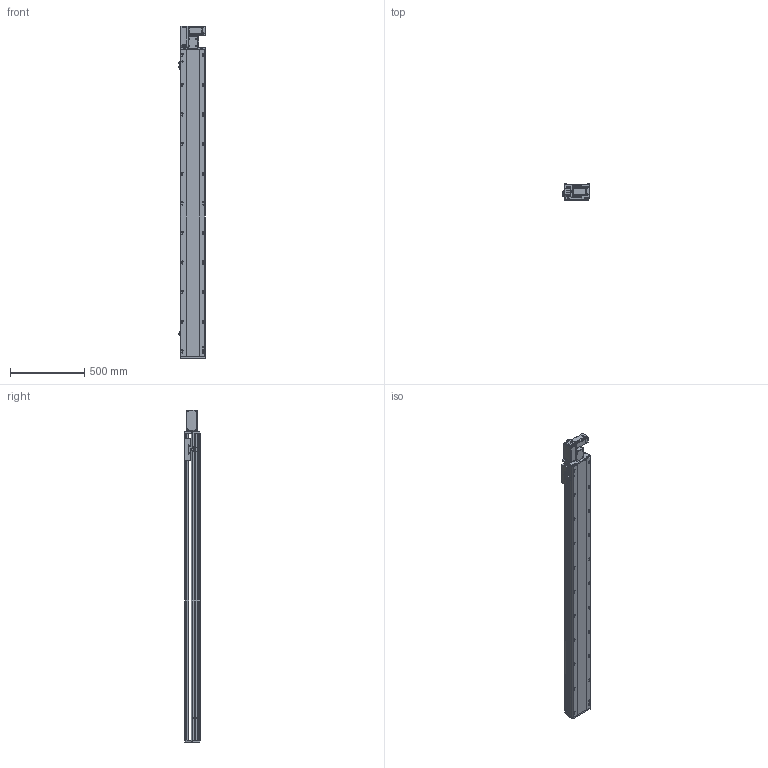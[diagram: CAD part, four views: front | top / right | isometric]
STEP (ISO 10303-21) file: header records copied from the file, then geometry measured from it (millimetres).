
FILE_DESCRIPTION (( 'STEP AP214' ), '1' );
FILE_NAME ('RTB17S-XX-1800-L-M40-C4.STEP', '2025-12-11T05:48:54', ( '' ), ( '' ), 'SwSTEP 2.0', 'SolidWorks 2018', '' );
FILE_SCHEMA (( 'AUTOMOTIVE_DESIGN' ));
Length unit declared in the file: millimetre
Products named in the file (14): RTB17S-XX-1800-L-M40-C4; OMRON EE-SX672 传感器^RTB17S-XX-XX-L-M40-C4（方程式）; RTH13-BL-012感应片外置^RTB17S-XX-XX-L-M40-C4（方程式）; RTB17S-L-004丝杆螺母连接座^RTB17S-XX-XX-L-M40-C4（方程式）; RTB14-L-018P^RTB17S-L-皮带座装配-400W_RTB17S-XX-XX-L-M40-C4（方程式）; 400W伺服电机^RTB17S-XX-XX-L-M40-C4（方程式）; RTB14-L-005P--轴承塑胶压盖^RTB17S-L-皮带座装配-400W_RTB17S-XX-XX-L-M40-C4（方程式）; RTB17S-L-001侧面板^RTB17S-XX-XX-L-M40-C4（方程式）; RTB17-R-011底座^RTB17S-XX-XX-L-M40-C4（方程式）; RTB14-L-017P^RTB17S-L-皮带座装配-400W_RTB17S-XX-XX-L-M40-C4（方程式）; RTB17S-L-皮带座装配-400W^RTB17S-XX-XX-L-M40-C4（方程式）; RTB14-L-008-M20--电机板^RTB17S-L-皮带座装配-400W_RTB17S-XX-XX-L-M40-C4（方程式）; RMP17S-L-014-T20--皮带座^RTB17S-L-皮带座装配-400W_RTB17S-XX-XX-L-M40-C4（方程式）; RTB17S-L-007上盖^RTB17S-XX-XX-L-M40-C4（方程式）
Assembly tree (16 placements, depth 3):
  RTB17S-XX-1800-L-M40-C4
    RTB17-R-011底座^RTB17S-XX-XX-L-M40-C4（方程式）
    RTB17S-L-007上盖^RTB17S-XX-XX-L-M40-C4（方程式）
    OMRON EE-SX672 传感器^RTB17S-XX-XX-L-M40-C4（方程式）  x3
    RTB17S-L-001侧面板^RTB17S-XX-XX-L-M40-C4（方程式）
    400W伺服电机^RTB17S-XX-XX-L-M40-C4（方程式）
    RTB17S-L-004丝杆螺母连接座^RTB17S-XX-XX-L-M40-C4（方程式）
    RTH13-BL-012感应片外置^RTB17S-XX-XX-L-M40-C4（方程式）
    RTB17S-L-皮带座装配-400W^RTB17S-XX-XX-L-M40-C4（方程式）
      RMP17S-L-014-T20--皮带座^RTB17S-L-皮带座装配-400W_RTB17S-XX-XX-L-M40-C4（方程式）
      RTB14-L-005P--轴承塑胶压盖^RTB17S-L-皮带座装配-400W_RTB17S-XX-XX-L-M40-C4（方程式）
      RTB14-L-008-M20--电机板^RTB17S-L-皮带座装配-400W_RTB17S-XX-XX-L-M40-C4（方程式）
      RTB14-L-017P^RTB17S-L-皮带座装配-400W_RTB17S-XX-XX-L-M40-C4（方程式）  x2
      RTB14-L-018P^RTB17S-L-皮带座装配-400W_RTB17S-XX-XX-L-M40-C4（方程式）
Bounding box: 186 x 108 x 2241 mm (x, y, z)
Volume: 18900911 mm3; surface area: 2208598.6 mm2
Topology: 15 solids, 15 shells, 2269 faces, 6303 edges, 4113 vertices
Faces by surface type: plane 1076, cylinder 745, bspline 301, cone 139, torus 8
Entity records: 65705 total; most frequent: CARTESIAN_POINT 18508, ORIENTED_EDGE 9450, DIRECTION 8756, EDGE_CURVE 4725, VERTEX_POINT 3101, AXIS2_PLACEMENT_3D 3031, VECTOR 2694, LINE 2694
